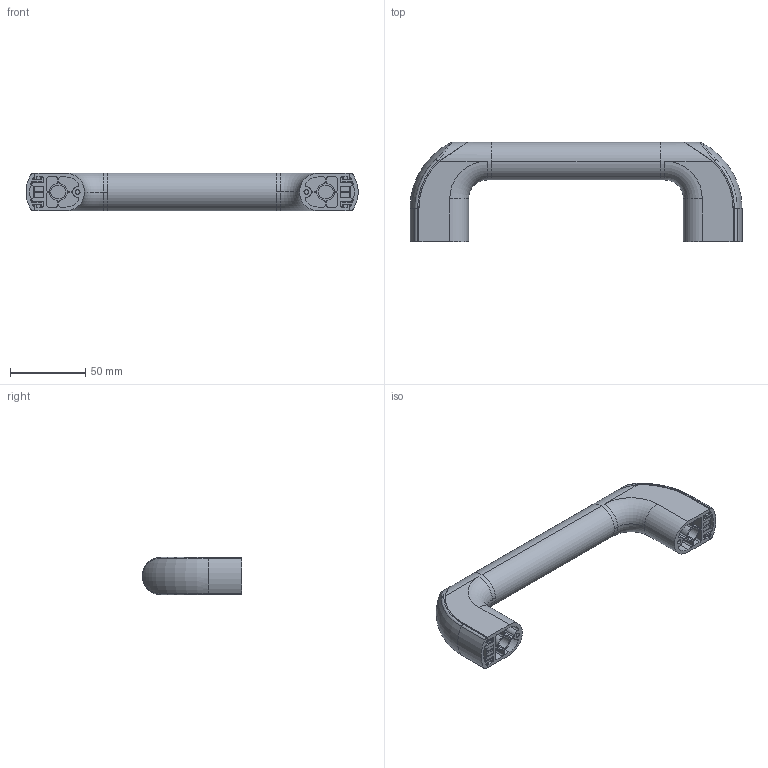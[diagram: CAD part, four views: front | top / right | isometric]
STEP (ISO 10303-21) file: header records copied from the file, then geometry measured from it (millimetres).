
FILE_DESCRIPTION (( 'STEP AP203' ), '1' );
FILE_NAME ('SK4-224-25-180C.STEP', '2017-06-27T06:17:38', ( 'admin' ), ( 'Microsoft' ), 'SwSTEP 2.0', 'SolidWorks 2015', '' );
FILE_SCHEMA (( 'CONFIG_CONTROL_DESIGN' ));
Length unit declared in the file: millimetre
Products named in the file (3): SK4-224-25-180C釱赽; SK4-224-25-180C
Assembly tree (3 placements, depth 2):
  SK4-224-25-180C
    SK4-224-25-180C釱赽  x2
    SK4-224-25-180C
Bounding box: 220.86 x 66 x 25 mm (x, y, z)
Volume: 152754.7 mm3; surface area: 41384.8 mm2
Topology: 3 solids, 3 shells, 344 faces, 940 edges, 618 vertices
Faces by surface type: cylinder 176, plane 156, torus 10, bspline 2
Entity records: 6112 total; most frequent: CARTESIAN_POINT 1240, DIRECTION 1000, ORIENTED_EDGE 946, EDGE_CURVE 473, AXIS2_PLACEMENT_3D 359, VERTEX_POINT 311, VECTOR 282, LINE 282
